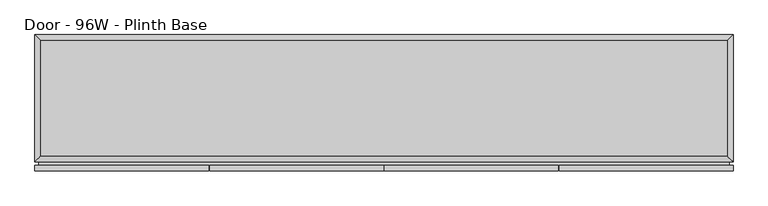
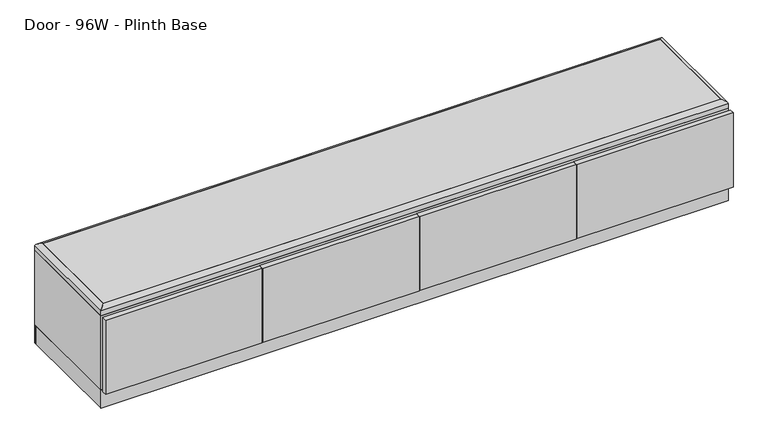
"""IFC4 building model written with IfcOpenShell, lengths in millimetres: furniture geometry, Steelcase Coalesse - Exponents - Seating - Bench : Door - 96W - Plinth Base."""

from ifc_helpers import new_model, si_unit, frame, origin, place, context, project, spatial, polyline, ellipse_curve, outline, extrude, faceted_brep, source, transform, mapped, element, save
from ifc_brep_helpers import plane_surface, cylinder_surface, advanced_brep


def door_96w_plinth_base_a0b8203d(model_context):
    return source(origin(), model_context, "Body", "SolidModel", [
        extrude(outline(polyline([(2438.4, 0.0), (2438.4, -19.05), (1831.0098, -19.05), (1831.0098, 0.0), (2438.4, 0.0)])), frame((0.0, 0.0, 82.55), z_axis=(0.0, 0.0, 1.0), x_axis=(1.0, 0.0, 0.0)), (0.0, 0.0, 1.0), 304.8),
        extrude(outline(polyline([(1828.0126, 0.0), (1828.0126, -19.05), (1220.6224, -19.05), (1220.6224, 0.0), (1828.0126, 0.0)])), frame((0.0, 0.0, 82.55), z_axis=(0.0, 0.0, 1.0), x_axis=(1.0, 0.0, 0.0)), (0.0, 0.0, 1.0), 304.8),
        extrude(outline(polyline([(1217.8284, 0.0), (1217.8284, -19.05), (610.4382, -19.05), (610.4382, 0.0), (1217.8284, 0.0)])), frame((0.0, 0.0, 82.55), z_axis=(0.0, 0.0, 1.0), x_axis=(1.0, 0.0, 0.0)), (0.0, 0.0, 1.0), 304.8),
        extrude(outline(polyline([(607.3902, 0.0), (607.3902, -19.05), (0.0, -19.05), (0.0, 0.0), (607.3902, 0.0)])), frame((0.0, 0.0, 82.55), z_axis=(0.0, 0.0, 1.0), x_axis=(1.0, 0.0, 0.0)), (0.0, 0.0, 1.0), 304.8),
        extrude(outline(polyline([(1209.548, 12.7), (623.824, 12.7), (623.824, 438.15), (1209.548, 438.15), (1209.548, 12.7)])), frame((0.0, 0.0, 215.9), z_axis=(0.0, 0.0, 1.0), x_axis=(1.0, 0.0, 0.0)), (0.0, 0.0, 1.0), 19.05),
        advanced_brep(
        [(0.0, 12.7, 406.6283237), (0.0, 12.7, 387.35), (2438.4, 12.7, 387.35), (2438.4, 12.7, 406.6283237), (2438.4, 457.2, 406.6283237), (2438.4, 457.2, 387.35), (0.0, 457.2, 387.35), (0.0, 457.2, 406.6283237), (2419.35, 31.75, 406.6283237), (2419.35, 438.15, 406.6283237), (19.05, 438.15, 406.6283237), (19.05, 31.75, 406.6283237), (2419.35, 438.15, 419.0696271), (2419.35, 31.75, 419.0696271), (19.05, 31.75, 419.0696271), (19.05, 438.15, 419.0696271)],
        [
            (0, 1),
            (1, 2),
            (2, 3),
            (3, 0),
            (4, 5),
            (5, 6),
            (6, 7),
            (7, 4),
            (8, 9),
            (9, 10),
            (10, 11),
            (11, 8),
            (0, 7),
            (6, 1),
            (5, 2),
            (4, 3),
            (12, 9),
            (8, 13),
            (13, 12),
            (13, 3, ellipse_curve(frame((2417.7973666, 33.3026334, 395.8870134), z_axis=(0.7071067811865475, 0.7071067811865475, 0.0), x_axis=(-0.7071067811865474, 0.7071067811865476, 0.0)), 32.8586138, 23.2345486)),
            (4, 12, ellipse_curve(frame((2417.7973666, 436.5973666, 395.8870134), z_axis=(0.7071067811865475, -0.7071067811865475, 0.0), x_axis=(0.7071067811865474, 0.7071067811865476, 0.0)), 32.8586138, 23.2345486)),
            (11, 14),
            (14, 13),
            (14, 0, ellipse_curve(frame((20.6026334, 33.3026334, 395.8870134), z_axis=(0.7071067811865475, -0.7071067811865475, 0.0), x_axis=(0.7071067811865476, 0.7071067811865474, 0.0)), 32.8586138, 23.2345486)),
            (10, 15),
            (15, 14),
            (15, 7, ellipse_curve(frame((20.6026334, 436.5973666, 395.8870134), z_axis=(-0.7071067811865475, -0.7071067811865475, 0.0), x_axis=(0.7071067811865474, -0.7071067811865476, 0.0)), 32.8586138, 23.2345486)),
            (12, 15),
        ],
        [
            plane_surface(frame((0.0, 12.7, 406.6283237), z_axis=(0.0, -1.0, 0.0), x_axis=(-1.0, 0.0, 0.0))),
            plane_surface(frame((0.0, 457.2, 406.6283237), z_axis=(0.0, 1.0, 0.0), x_axis=(1.0, 0.0, 0.0))),
            plane_surface(frame((2438.4, 12.7, 406.6283237), z_axis=(0.0, 0.0, 1.0), x_axis=(0.0, 1.0, 0.0))),
            plane_surface(frame((0.0, 12.7, 406.6283237), z_axis=(-1.0, 0.0, 1.677988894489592e-12), x_axis=(0.0, 1.0, 0.0))),
            plane_surface(frame((0.0, 12.7, 387.35), z_axis=(0.0, 0.0, -1.0), x_axis=(0.0, 1.0, 0.0))),
            plane_surface(frame((2438.4, 12.7, 387.35), z_axis=(1.0, 0.0, 0.0), x_axis=(0.0, 1.0, 0.0))),
            plane_surface(frame((2419.35, 438.15, 406.6284102), z_axis=(-1.0, 0.0, 0.0), x_axis=(0.0, -1.0, 0.0))),
            cylinder_surface(frame((2417.7973666, 457.2, 395.8870134), z_axis=(0.0, 1.0, 0.0), x_axis=(1.0, 0.0, 0.0)), 23.2345486),
            plane_surface(frame((2419.35, 31.75, 406.6284102), z_axis=(0.0, 1.0, 0.0), x_axis=(-1.0, 0.0, 0.0))),
            cylinder_surface(frame((2438.4, 33.3026334, 395.8870134), z_axis=(1.0, 0.0, 0.0), x_axis=(0.0, -1.0, 0.0)), 23.2345486),
            plane_surface(frame((19.05, 31.75, 406.6284102), z_axis=(1.0, 0.0, 0.0), x_axis=(0.0, 1.0, 0.0))),
            cylinder_surface(frame((20.6026334, 12.7, 395.8870134), z_axis=(0.0, -1.0, 0.0), x_axis=(-1.0, 0.0, 0.0)), 23.2345486),
            plane_surface(frame((19.05, 438.15, 406.6284102), z_axis=(0.0, -1.0, 0.0), x_axis=(1.0, 0.0, 0.0))),
            cylinder_surface(frame((0.0, 436.5973666, 395.8870134), z_axis=(-1.0, 0.0, 0.0), x_axis=(0.0, 1.0, 0.0)), 23.2345486),
        ],
        [
            (0, [[1, 2, 3, 4]]),
            (1, [[5, 6, 7, 8]]),
            (2, [[9, 10, 11, 12]]),
            (3, [[-1, 13, -7, 14]]),
            (4, [[-2, -14, -6, 15]]),
            (5, [[-3, -15, -5, 16]]),
            (6, [[17, -9, 18, 19]]),
            (7, [[-19, 20, -16, 21]]),
            (8, [[-18, -12, 22, 23]]),
            (9, [[-20, -23, 24, -4]]),
            (10, [[-22, -11, 25, 26]]),
            (11, [[-24, -26, 27, -13]]),
            (12, [[-17, 28, -25, -10]]),
            (13, [[-21, -8, -27, -28]]),
        ],
    ),
        extrude(outline(polyline([(1814.322, 12.7), (1228.598, 12.7), (1228.598, 438.15), (1814.322, 438.15), (1814.322, 12.7)])), frame((0.0, 0.0, 215.9), z_axis=(0.0, 0.0, 1.0), x_axis=(1.0, 0.0, 0.0)), (0.0, 0.0, 1.0), 19.05),
        extrude(outline(polyline([(1833.372, 438.15), (1833.372, 0.0), (1814.322, 0.0), (1814.322, 438.15), (1833.372, 438.15)])), frame((0.0, 0.0, 101.8032), z_axis=(0.0, 0.0, 1.0), x_axis=(1.0, 0.0, 0.0)), (0.0, 0.0, 1.0), 266.2936),
        extrude(outline(polyline([(1228.598, 438.15), (1228.598, 0.0), (1209.548, 0.0), (1209.548, 438.15), (1228.598, 438.15)])), frame((0.0, 0.0, 101.6), z_axis=(0.0, 0.0, 1.0), x_axis=(1.0, 0.0, 0.0)), (0.0, 0.0, 1.0), 266.7),
        faceted_brep([(2438.4, 12.7, 387.35), (0.0, 12.7, 387.35), (0.0, 12.7, 82.55), (2438.4, 12.7, 82.55), (19.05, 12.7, 368.0968), (604.774, 12.7, 368.0968), (604.774, 12.7, 101.8032), (19.05, 12.7, 101.8032), (623.824, 12.7, 368.0968), (2419.35, 12.7, 368.0968), (2419.35, 12.7, 101.8032), (623.824, 12.7, 101.8032), (2438.4, 457.2, 387.35), (2438.4, 457.2, 82.55), (0.0, 457.2, 82.55), (0.0, 457.2, 387.35), (604.774, 438.15, 368.0968), (19.05, 438.15, 368.0968), (19.05, 438.15, 101.8032), (604.774, 438.15, 101.8032), (2419.35, 438.15, 368.0968), (623.824, 438.15, 368.0968), (623.824, 438.15, 101.8032), (2419.35, 438.15, 101.8032)], [[[0, 1, 2, 3], [4, 5, 6, 7], [8, 9, 10, 11]], [[12, 13, 14, 15]], [[1, 0, 12, 15]], [[2, 1, 15, 14]], [[3, 2, 14, 13]], [[0, 3, 13, 12]], [[16, 17, 18, 19]], [[20, 21, 22, 23]], [[17, 16, 5, 4]], [[18, 17, 4, 7]], [[19, 18, 7, 6]], [[16, 19, 6, 5]], [[21, 20, 9, 8]], [[22, 21, 8, 11]], [[23, 22, 11, 10]], [[20, 23, 10, 9]]]),
        extrude(outline(polyline([(2438.4, 457.2), (2438.4, 450.85), (0.0, 450.85), (0.0, 457.2), (2438.4, 457.2)])), frame((0.0, 0.0, 6.35), z_axis=(0.0, 0.0, 1.0), x_axis=(1.0, 0.0, 0.0)), (0.0, 0.0, 1.0), 73.4568),
        extrude(outline(polyline([(6.31225, 19.05), (0.0, 19.05), (0.0, 450.85), (6.31225, 450.85), (6.31225, 19.05)])), frame((0.0, 0.0, 6.35), z_axis=(0.0, 0.0, 1.0), x_axis=(1.0, 0.0, 0.0)), (0.0, 0.0, 1.0), 73.4568),
        extrude(outline(polyline([(2438.4, 19.05), (2438.4, 12.7), (0.0, 12.7), (0.0, 19.05), (2438.4, 19.05)])), frame((0.0, 0.0, 6.35), z_axis=(0.0, 0.0, 1.0), x_axis=(1.0, 0.0, 0.0)), (0.0, 0.0, 1.0), 73.4568),
        extrude(outline(polyline([(2438.4, 19.05), (2432.01225, 19.05), (2432.01225, 450.85), (2438.4, 450.85), (2438.4, 19.05)])), frame((0.0, 0.0, 6.35), z_axis=(0.0, 0.0, 1.0), x_axis=(1.0, 0.0, 0.0)), (0.0, 0.0, 1.0), 73.4568),
        extrude(outline(polyline([(2433.53625, 452.374), (2433.53625, 17.526), (4.78825, 17.526), (4.78825, 452.374), (2433.53625, 452.374)]), holes=[polyline([(6.31225, 19.05), (2432.01225, 19.05), (2432.01225, 450.85), (6.31225, 450.85), (6.31225, 19.05)])]), frame((0.0, 0.0, 79.8068), z_axis=(0.0, 0.0, 1.0), x_axis=(1.0, 0.0, 0.0)), (0.0, 0.0, 1.0), 2.7432),
        extrude(outline(polyline([(2419.35, 31.75), (19.05, 31.75), (19.05, 438.15), (2419.35, 438.15), (2419.35, 31.75)])), frame((0.0, 0.0, 406.6283237), z_axis=(0.0, 0.0, 1.0), x_axis=(1.0, 0.0, 0.0)), (0.0, 0.0, 1.0), 12.4413034),
        extrude(outline(polyline([(374.4468, 2425.4206), (374.4468, 12.7), (95.4532, 12.7), (95.4532, 2425.4206), (374.4468, 2425.4206)]), holes=[polyline([(368.0968, 623.824), (368.0968, 2419.35), (101.8032, 2419.35), (101.8032, 623.824), (368.0968, 623.824)]), polyline([(368.0968, 604.774), (101.8032, 604.774), (101.8032, 19.05), (368.0968, 19.05), (368.0968, 604.774)])]), frame((0.0, 0.0, 0.0), z_axis=(0.0, 1.0, 0.0), x_axis=(0.0, 0.0, 1.0)), (0.0, 0.0, 1.0), 12.7),
    ])


if __name__ == "__main__":
    model = new_model("IFC4")
    model_context = context("Model", 3, world=origin())
    ifc_project = project(units=[si_unit("LENGTHUNIT", "METRE", prefix="MILLI")], contexts=[model_context])
    site = spatial("IfcSite", under=ifc_project)
    building = spatial("IfcBuilding", under=site)
    placement = place(None, origin())
    door_96w_plinth_base_shape = door_96w_plinth_base_a0b8203d(model_context)
    element("IfcFurniture", 1, ObjectType="Steelcase Coalesse - Exponents - Seating - Bench : Door - 96W - Plinth Base", at=placement, inside=building, context=model_context, shape_type="MappedRepresentation", body=[
        mapped(door_96w_plinth_base_shape, transform((0.0, 0.0, 0.0), x_axis=(1.0, 0.0, 0.0), y_axis=(0.0, 1.0, 0.0), z_axis=(0.0, 0.0, 1.0))),
    ])
    save(model, "model.ifc")
